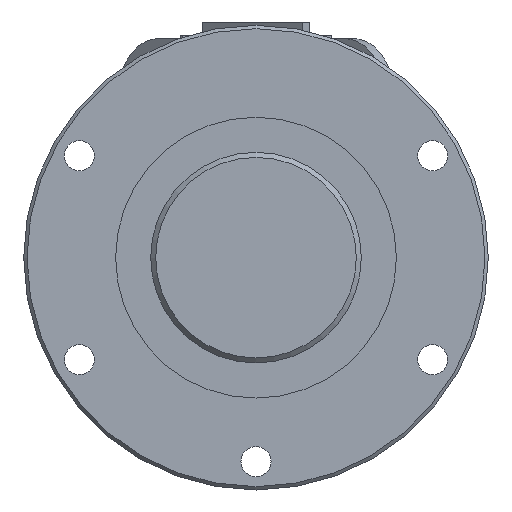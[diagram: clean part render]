
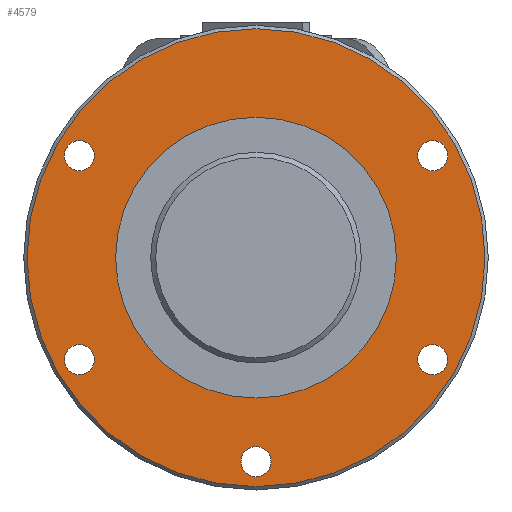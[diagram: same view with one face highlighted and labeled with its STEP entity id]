
A CAD part, left-side view. The second image highlights one B-rep face of the part: STEP entity #4579.
In plain terms, the highlighted planar face has unit normal (-1, 0, 0).
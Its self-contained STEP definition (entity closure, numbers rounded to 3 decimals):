
#1661=ORIENTED_EDGE('',*,*,#2816,.T.);
#1662=ORIENTED_EDGE('',*,*,#2817,.T.);
#1663=ORIENTED_EDGE('',*,*,#2818,.T.);
#1664=ORIENTED_EDGE('',*,*,#2819,.T.);
#1665=ORIENTED_EDGE('',*,*,#2820,.T.);
#1666=ORIENTED_EDGE('',*,*,#2821,.T.);
#1667=ORIENTED_EDGE('',*,*,#2822,.F.);
#2816=EDGE_CURVE('',#3391,#3391,#3573,.T.);
#2817=EDGE_CURVE('',#3392,#3392,#3574,.T.);
#2818=EDGE_CURVE('',#3393,#3393,#3575,.T.);
#2819=EDGE_CURVE('',#3394,#3394,#3576,.T.);
#2820=EDGE_CURVE('',#3395,#3395,#3577,.T.);
#2821=EDGE_CURVE('',#3396,#3396,#3578,.T.);
#2822=EDGE_CURVE('',#3397,#3397,#3579,.T.);
#3391=VERTEX_POINT('',#7352);
#3392=VERTEX_POINT('',#7354);
#3393=VERTEX_POINT('',#7356);
#3394=VERTEX_POINT('',#7358);
#3395=VERTEX_POINT('',#7360);
#3396=VERTEX_POINT('',#7362);
#3397=VERTEX_POINT('',#7364);
#3573=CIRCLE('',#4894,42.);
#3574=CIRCLE('',#4895,4.5);
#3575=CIRCLE('',#4896,4.5);
#3576=CIRCLE('',#4897,4.5);
#3577=CIRCLE('',#4898,4.5);
#3578=CIRCLE('',#4899,4.5);
#3579=CIRCLE('',#4900,68.5);
#3759=EDGE_LOOP('',(#1661));
#3760=EDGE_LOOP('',(#1662));
#3761=EDGE_LOOP('',(#1663));
#3762=EDGE_LOOP('',(#1664));
#3763=EDGE_LOOP('',(#1665));
#3764=EDGE_LOOP('',(#1666));
#3765=EDGE_LOOP('',(#1667));
#4085=FACE_BOUND('',#3759,.T.);
#4086=FACE_BOUND('',#3760,.T.);
#4087=FACE_BOUND('',#3761,.T.);
#4088=FACE_BOUND('',#3762,.T.);
#4089=FACE_BOUND('',#3763,.T.);
#4090=FACE_BOUND('',#3764,.T.);
#4091=FACE_BOUND('',#3765,.T.);
#4379=PLANE('',#4893);
#4579=ADVANCED_FACE('',(#4085,#4086,#4087,#4088,#4089,#4090,#4091),#4379,
 .T.);
#4893=AXIS2_PLACEMENT_3D('',#7350,#5698,#5699);
#4894=AXIS2_PLACEMENT_3D('',#7351,#5700,#5701);
#4895=AXIS2_PLACEMENT_3D('',#7353,#5702,#5703);
#4896=AXIS2_PLACEMENT_3D('',#7355,#5704,#5705);
#4897=AXIS2_PLACEMENT_3D('',#7357,#5706,#5707);
#4898=AXIS2_PLACEMENT_3D('',#7359,#5708,#5709);
#4899=AXIS2_PLACEMENT_3D('',#7361,#5710,#5711);
#4900=AXIS2_PLACEMENT_3D('',#7363,#5712,#5713);
#5698=DIRECTION('',(-1.,0.,0.));
#5699=DIRECTION('',(0.,0.,1.));
#5700=DIRECTION('',(1.,0.,0.));
#5701=DIRECTION('',(0.,0.,-1.));
#5702=DIRECTION('',(1.,0.,0.));
#5703=DIRECTION('',(0.,0.,-1.));
#5704=DIRECTION('',(1.,0.,0.));
#5705=DIRECTION('',(0.,0.,-1.));
#5706=DIRECTION('',(1.,0.,0.));
#5707=DIRECTION('',(0.,0.,-1.));
#5708=DIRECTION('',(1.,0.,0.));
#5709=DIRECTION('',(0.,0.,-1.));
#5710=DIRECTION('',(1.,0.,0.));
#5711=DIRECTION('',(0.,0.,-1.));
#5712=DIRECTION('',(1.,0.,0.));
#5713=DIRECTION('',(0.,0.,-1.));
#7350=CARTESIAN_POINT('',(0.,68.5,0.));
#7351=CARTESIAN_POINT('',(0.,0.,0.));
#7352=CARTESIAN_POINT('',(0.,0.,-42.));
#7353=CARTESIAN_POINT('',(0.,-61.,0.));
#7354=CARTESIAN_POINT('',(0.,-61.,-4.5));
#7355=CARTESIAN_POINT('',(0.,-30.5,52.828));
#7356=CARTESIAN_POINT('',(0.,-30.5,48.328));
#7357=CARTESIAN_POINT('',(0.,30.5,-52.828));
#7358=CARTESIAN_POINT('',(0.,30.5,-57.328));
#7359=CARTESIAN_POINT('',(0.,-30.5,-52.828));
#7360=CARTESIAN_POINT('',(0.,-30.5,-57.328));
#7361=CARTESIAN_POINT('',(0.,30.5,52.828));
#7362=CARTESIAN_POINT('',(0.,30.5,48.328));
#7363=CARTESIAN_POINT('',(0.,0.,0.));
#7364=CARTESIAN_POINT('',(0.,0.,-68.5));
